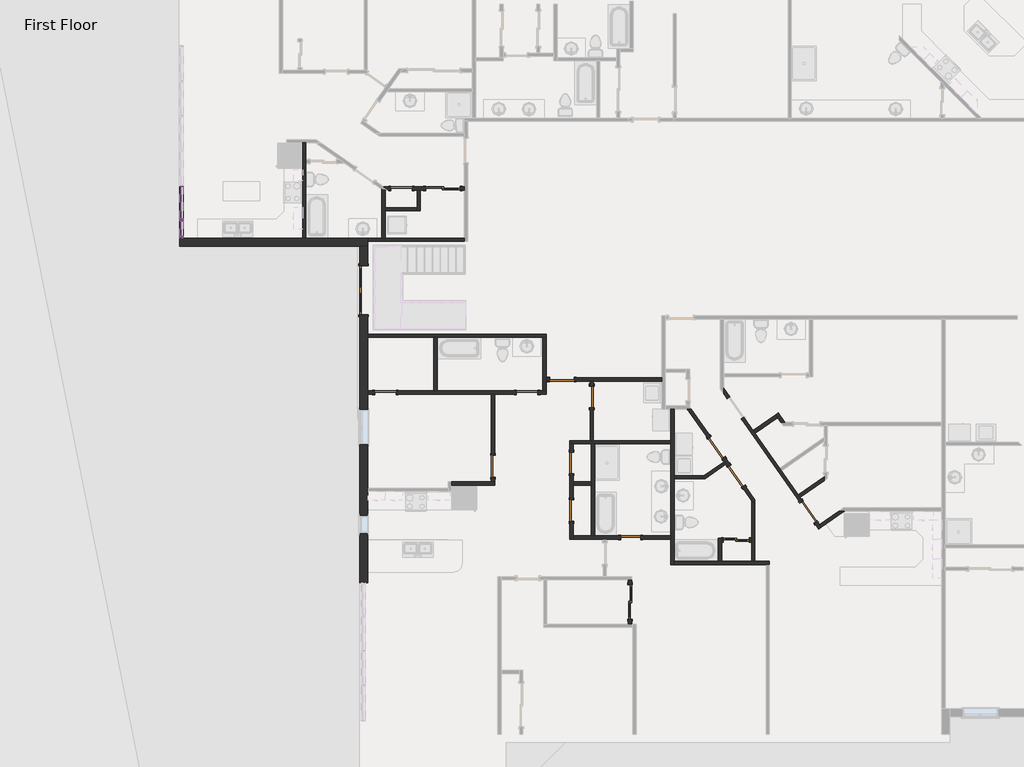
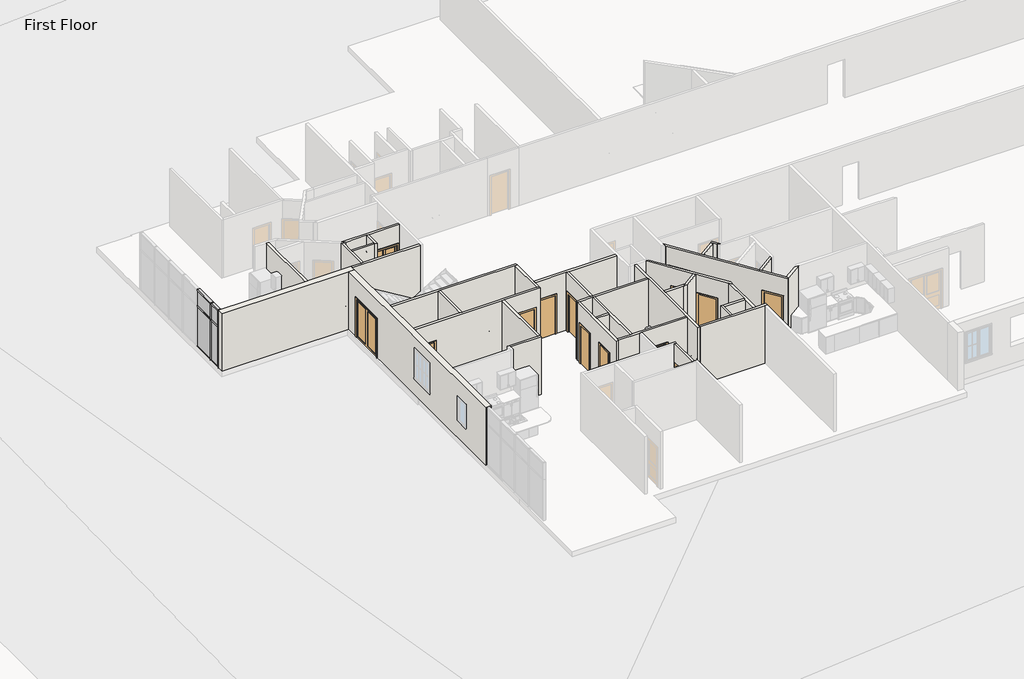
# One storey, part 2 of 17: 35 walls, 16 doors, 10 members, 4 plates.
"""IFC4 building model written with IfcOpenShell, lengths in millimetres."""

from ifc_helpers import new_model, si_unit, frame, origin, origin_with_axes, place, context, project, spatial, polyline, outline, extrude, faceted_brep, transform, mapped, element, save
from components import door_3dccea18, door_2d0eeab4, door_d8f5dbb5, door_f2b275c1, door_825b8444, door_c29894e6, door_88c23cd7, door_900f836f, rectangular_mullion_rectangular_mullion_1_fa3625a1, rectangular_mullion_rectangular_mullion_1_7cbf0b94, rectangular_mullion_rectangular_mullion_1_6186cc23, rectangular_mullion_rectangular_mullion_1_049a2e78, rectangular_mullion_rectangular_mullion_1_a50b3cda, rectangular_mullion_rectangular_mullion_1_5cd4c5ac, rectangular_mullion_rectangular_mullion_1_5f94ee87, rectangular_mullion_rectangular_mullion_1_01ab8f87, system_panel_glazed_0ed27d1d, system_panel_glazed_134bacdb, system_panel_glazed_08691960, system_panel_glazed_359e7c1e

model = new_model("IFC4")

# Units and contexts
model_context = context("Model", 3, world=origin())
ifc_project = project(units=[si_unit("LENGTHUNIT", "METRE", prefix="MILLI")], contexts=[model_context])

# Site, building, storey
site = spatial("IfcSite", under=ifc_project)
building = spatial("IfcBuilding", under=site)
storey = spatial("IfcBuildingStorey", under=building, Name="First Floor", Elevation=0.0)

# Doors
placement = place(None, origin())
door_shape = door_3dccea18(model_context)
element("IfcDoor", 1, ObjectType="Double-Glass 1 : 68\" x 80\"", at=placement, inside=storey, context=model_context, shape_type="MappedRepresentation", body=[
    mapped(door_shape, transform((7031.4393659, -3694.3871067, 0.0), x_axis=(0.0, 1.0, 0.0), y_axis=(-1.0, 0.0, 0.0), z_axis=(0.0, 0.0, 1.0))),
])
door_2_shape = door_2d0eeab4(model_context)
element("IfcDoor", 2, ObjectType="Single-Flush : 28\" x 80\"", at=placement, inside=storey, context=model_context, shape_type="MappedRepresentation", body=[
    mapped(door_2_shape, transform((16422.928371, -12394.3493344, 0.0), x_axis=(-1.0, 0.0, 0.0), y_axis=(0.0, -1.0, 0.0), z_axis=(0.0, 0.0, 1.0))),
])
door_3_shape = door_d8f5dbb5(model_context)
element("IfcDoor", 3, ObjectType="Single-Flush : 30\" x 80\"", at=placement, inside=storey, context=model_context, shape_type="MappedRepresentation", body=[
    mapped(door_3_shape, transform((12779.9561509, -7293.7212391, 0.0), x_axis=(1.0, 0.0, 0.0), y_axis=(0.0, 1.0, 0.0), z_axis=(0.0, 0.0, 1.0))),
])
element("IfcDoor", 4, ObjectType="Single-Flush : 30\" x 80\"", at=placement, inside=storey, context=model_context, shape_type="MappedRepresentation", body=[
    mapped(door_3_shape, transform((14339.6754984, -9769.6379528, 0.0), x_axis=(0.0, 1.0, 0.0), y_axis=(-1.0, 0.0, 0.0), z_axis=(0.0, 0.0, 1.0))),
])
door_4_shape = door_f2b275c1(model_context)
element("IfcDoor", 5, ObjectType="Single-Flush : 30\" x 80\"", at=placement, inside=storey, context=model_context, shape_type="MappedRepresentation", body=[
    mapped(door_4_shape, transform((8359.613642, -116.1297775, 0.0), x_axis=(-1.0, 0.0, 0.0), y_axis=(0.0, -1.0, 0.0), z_axis=(0.0, 0.0, 1.0))),
])
element("IfcDoor", 6, ObjectType="Single-Flush : 30\" x 80\"", at=placement, inside=storey, context=model_context, shape_type="MappedRepresentation", body=[
    mapped(door_4_shape, transform((15056.22709, -7446.1212391, 0.0), x_axis=(0.0, 1.0, 0.0), y_axis=(-1.0, 0.0, 0.0), z_axis=(0.0, 0.0, 1.0))),
])
element("IfcDoor", 7, ObjectType="Single-Flush : 30\" x 80\"", at=placement, inside=storey, context=model_context, shape_type="MappedRepresentation", body=[
    mapped(door_4_shape, transform((11582.8058728, -9888.1265712, 0.0), x_axis=(0.0, -1.0, 0.0), y_axis=(1.0, 0.0, 0.0), z_axis=(0.0, 0.0, 1.0))),
])
element("IfcDoor", 8, ObjectType="Single-Flush : 30\" x 80\"", at=placement, inside=storey, context=model_context, shape_type="MappedRepresentation", body=[
    mapped(door_4_shape, transform((7791.0581159, -7293.7212391, 0.0), x_axis=(-1.0, 0.0, 0.0), y_axis=(0.0, -1.0, 0.0), z_axis=(0.0, 0.0, 1.0))),
])
element("IfcDoor", 9, ObjectType="Single-Flush : 30\" x 80\"", at=placement, inside=storey, context=model_context, shape_type="MappedRepresentation", body=[
    mapped(door_4_shape, transform((14339.6754984, -11446.0379528, 0.0), x_axis=(0.0, -1.0, 0.0), y_axis=(1.0, 0.0, 0.0), z_axis=(0.0, 0.0, 1.0))),
])
door_5_shape = door_825b8444(model_context)
element("IfcDoor", 10, ObjectType="Single-Flush : 34\" x 80\"", at=placement, inside=storey, context=model_context, shape_type="MappedRepresentation", body=[
    mapped(door_5_shape, transform((19441.5762048, -9236.3622072, 0.0), x_axis=(0.573576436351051, -0.8191520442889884, 0.0), y_axis=(0.8191520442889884, 0.573576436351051, 0.0), z_axis=(0.0, 0.0, 1.0))),
])
door_6_shape = door_c29894e6(model_context)
element("IfcDoor", 11, ObjectType="Single-Flush : 34\" x 80\"", at=placement, inside=storey, context=model_context, shape_type="MappedRepresentation", body=[
    mapped(door_6_shape, transform((22679.8832205, -11498.1076976, 0.0), x_axis=(0.5735764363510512, -0.8191520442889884, 0.0), y_axis=(0.8191520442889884, 0.5735764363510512, 0.0), z_axis=(0.0, 0.0, 1.0))),
])
element("IfcDoor", 12, ObjectType="Single-Flush : 34\" x 80\"", at=placement, inside=storey, context=model_context, shape_type="MappedRepresentation", body=[
    mapped(door_6_shape, transform((20140.880596, -10235.0723796, 0.0), x_axis=(-0.573576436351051, 0.8191520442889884, 0.0), y_axis=(-0.8191520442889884, -0.573576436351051, 0.0), z_axis=(0.0, 0.0, 1.0))),
])
element("IfcDoor", 13, ObjectType="Single-Flush : 34\" x 80\"", at=placement, inside=storey, context=model_context, shape_type="MappedRepresentation", body=[
    mapped(door_6_shape, transform((13999.1561509, -6836.5212391, 0.0), x_axis=(-1.0, 0.0, 0.0), y_axis=(0.0, -1.0, 0.0), z_axis=(0.0, 0.0, 1.0))),
])
door_7_shape = door_88c23cd7(model_context)
element("IfcDoor", 14, ObjectType="Sliding-Closet : 36\" x 80\"", at=placement, inside=storey, context=model_context, shape_type="MappedRepresentation", body=[
    mapped(door_7_shape, transform((20139.3524328, -12607.5204597, 0.0), x_axis=(1.0, 0.0, 0.0), y_axis=(0.0, 1.0, 0.0), z_axis=(0.0, 0.0, 1.0))),
])
door_8_shape = door_900f836f(model_context)
element("IfcDoor", 15, ObjectType="Sliding-Closet : 48\" x 80\"", at=placement, inside=storey, context=model_context, shape_type="MappedRepresentation", body=[
    mapped(door_8_shape, transform((9813.633999, -243.1297775, 0.0), x_axis=(1.0, 0.0, 0.0), y_axis=(0.0, 1.0, 0.0), z_axis=(0.0, 0.0, 1.0))),
])
element("IfcDoor", 16, ObjectType="Sliding-Closet : 48\" x 80\"", at=placement, inside=storey, context=model_context, shape_type="MappedRepresentation", body=[
    mapped(door_8_shape, transform((16274.860372, -14663.3427377, 0.0), x_axis=(0.0, -1.0, 0.0), y_axis=(1.0, 0.0, 0.0), z_axis=(0.0, 0.0, 1.0))),
])

# Members
rectangular_mullion_rectangular_mullion_1_shape = rectangular_mullion_rectangular_mullion_1_fa3625a1(model_context)
element("IfcMember", 17, ObjectType="Rectangular Mullion : Rectangular Mullion 1", at=placement, inside=storey, context=model_context, shape_type="MappedRepresentation", body=[
    mapped(rectangular_mullion_rectangular_mullion_1_shape, transform((612.3831159, -1182.2572154, 3048.0), x_axis=(0.0, 0.0, 1.0), y_axis=(-1.0, 0.0, 0.0), z_axis=(0.0, -1.0, 0.0))),
])
element("IfcMember", 18, ObjectType="Rectangular Mullion : Rectangular Mullion 1", at=placement, inside=storey, context=model_context, shape_type="MappedRepresentation", body=[
    mapped(rectangular_mullion_rectangular_mullion_1_shape, transform((612.3831159, -26.5572154, 0.0), x_axis=(0.0, 0.0, -1.0), y_axis=(-1.0, 0.0, 0.0), z_axis=(0.0, 1.0, 0.0))),
])
rectangular_mullion_rectangular_mullion_1_2_shape = rectangular_mullion_rectangular_mullion_1_7cbf0b94(model_context)
element("IfcMember", 19, ObjectType="Rectangular Mullion : Rectangular Mullion 1", at=placement, inside=storey, context=model_context, shape_type="MappedRepresentation", body=[
    mapped(rectangular_mullion_rectangular_mullion_1_2_shape, transform((612.3831159, -1182.2572154, 2165.35), x_axis=(0.0, 0.0, 1.0), y_axis=(-1.0, 0.0, 0.0), z_axis=(0.0, -1.0, 0.0))),
])
rectangular_mullion_rectangular_mullion_1_3_shape = rectangular_mullion_rectangular_mullion_1_6186cc23(model_context)
element("IfcMember", 20, ObjectType="Rectangular Mullion : Rectangular Mullion 1", at=placement, inside=storey, context=model_context, shape_type="MappedRepresentation", body=[
    mapped(rectangular_mullion_rectangular_mullion_1_3_shape, transform((612.3831159, -1214.0072154, 0.0), x_axis=(0.0, -1.0, 0.0), y_axis=(-1.0, 0.0, 0.0), z_axis=(0.0, 0.0, -1.0))),
])
rectangular_mullion_rectangular_mullion_1_4_shape = rectangular_mullion_rectangular_mullion_1_049a2e78(model_context)
element("IfcMember", 21, ObjectType="Rectangular Mullion : Rectangular Mullion 1", at=placement, inside=storey, context=model_context, shape_type="MappedRepresentation", body=[
    mapped(rectangular_mullion_rectangular_mullion_1_4_shape, transform((612.3831159, -1214.0072154, 2165.35), x_axis=(0.0, -1.0, 0.0), y_axis=(-1.0, 0.0, 0.0), z_axis=(0.0, 0.0, -1.0))),
])
rectangular_mullion_rectangular_mullion_1_5_shape = rectangular_mullion_rectangular_mullion_1_a50b3cda(model_context)
element("IfcMember", 22, ObjectType="Rectangular Mullion : Rectangular Mullion 1", at=placement, inside=storey, context=model_context, shape_type="MappedRepresentation", body=[
    mapped(rectangular_mullion_rectangular_mullion_1_5_shape, transform((612.3831159, -1864.031369, 0.0), x_axis=(0.0, -1.0, 0.0), y_axis=(-1.0, 0.0, 0.0), z_axis=(0.0, 0.0, -1.0))),
])
rectangular_mullion_rectangular_mullion_1_6_shape = rectangular_mullion_rectangular_mullion_1_5cd4c5ac(model_context)
element("IfcMember", 23, ObjectType="Rectangular Mullion : Rectangular Mullion 1", at=placement, inside=storey, context=model_context, shape_type="MappedRepresentation", body=[
    mapped(rectangular_mullion_rectangular_mullion_1_6_shape, transform((612.3831159, -1864.031369, 2165.35), x_axis=(0.0, -1.0, 0.0), y_axis=(-1.0, 0.0, 0.0), z_axis=(0.0, 0.0, -1.0))),
])
rectangular_mullion_rectangular_mullion_1_7_shape = rectangular_mullion_rectangular_mullion_1_5f94ee87(model_context)
element("IfcMember", 24, ObjectType="Rectangular Mullion : Rectangular Mullion 1", at=placement, inside=storey, context=model_context, shape_type="MappedRepresentation", body=[
    mapped(rectangular_mullion_rectangular_mullion_1_7_shape, transform((612.3831159, -1800.531369, 3048.0), x_axis=(0.0, 0.0, 1.0), y_axis=(-1.0, 0.0, 0.0), z_axis=(0.0, -1.0, 0.0))),
])
element("IfcMember", 25, ObjectType="Rectangular Mullion : Rectangular Mullion 1", at=placement, inside=storey, context=model_context, shape_type="MappedRepresentation", body=[
    mapped(rectangular_mullion_rectangular_mullion_1_7_shape, transform((612.3831159, -1245.7572154, 0.0), x_axis=(0.0, 0.0, -1.0), y_axis=(-1.0, 0.0, 0.0), z_axis=(0.0, 1.0, 0.0))),
])
rectangular_mullion_rectangular_mullion_1_8_shape = rectangular_mullion_rectangular_mullion_1_01ab8f87(model_context)
element("IfcMember", 26, ObjectType="Rectangular Mullion : Rectangular Mullion 1", at=placement, inside=storey, context=model_context, shape_type="MappedRepresentation", body=[
    mapped(rectangular_mullion_rectangular_mullion_1_8_shape, transform((612.3831159, -1800.531369, 2165.35), x_axis=(0.0, 0.0, 1.0), y_axis=(-1.0, 0.0, 0.0), z_axis=(0.0, -1.0, 0.0))),
])

# Plates
system_panel_glazed_shape = system_panel_glazed_0ed27d1d(model_context)
element("IfcPlate", 27, ObjectType="System Panel : Glazed", at=placement, inside=storey, context=model_context, shape_type="MappedRepresentation", body=[
    mapped(system_panel_glazed_shape, transform((612.3831159, -604.4072154, 63.5), x_axis=(0.0, -1.0, 0.0), y_axis=(1.0, 0.0, 0.0), z_axis=(0.0, 0.0, 1.0))),
])
system_panel_glazed_2_shape = system_panel_glazed_134bacdb(model_context)
element("IfcPlate", 28, ObjectType="System Panel : Glazed", at=placement, inside=storey, context=model_context, shape_type="MappedRepresentation", body=[
    mapped(system_panel_glazed_2_shape, transform((612.3831159, -604.4072154, 2197.1), x_axis=(0.0, -1.0, 0.0), y_axis=(1.0, 0.0, 0.0), z_axis=(0.0, 0.0, 1.0))),
])
system_panel_glazed_3_shape = system_panel_glazed_08691960(model_context)
element("IfcPlate", 29, ObjectType="System Panel : Glazed", at=placement, inside=storey, context=model_context, shape_type="MappedRepresentation", body=[
    mapped(system_panel_glazed_3_shape, transform((612.3831159, -1523.1442922, 63.5), x_axis=(0.0, -1.0, 0.0), y_axis=(1.0, 0.0, 0.0), z_axis=(0.0, 0.0, 1.0))),
])
system_panel_glazed_4_shape = system_panel_glazed_359e7c1e(model_context)
element("IfcPlate", 30, ObjectType="System Panel : Glazed", at=placement, inside=storey, context=model_context, shape_type="MappedRepresentation", body=[
    mapped(system_panel_glazed_4_shape, transform((612.3831159, -1523.1442922, 2197.1), x_axis=(0.0, -1.0, 0.0), y_axis=(1.0, 0.0, 0.0), z_axis=(0.0, 0.0, 1.0))),
])

# Walls
element("IfcWall", 31, ObjectType="Exterior - Brick on Wood Stud", at=placement, inside=storey, context=model_context, shape_type="Brep", body=[
    faceted_brep([(7170.3456159, -2830.7871067, 2032.0), (7170.3456159, -2830.7871067, 0.0), (7170.3456159, -2146.606369, 0.0), (7170.3456159, -2146.606369, 3048.0), (7170.3456159, -5237.4371067, 3048.0), (7170.3456159, -5351.7371067, 3048.0), (7170.3456159, -7236.5712391, 3048.0), (7170.3456159, -7350.8712391, 3048.0), (7170.3456159, -10660.7993344, 3048.0), (7170.3456159, -10775.0993344, 3048.0), (7170.3456159, -13981.3871067, 3048.0), (7170.3456159, -13981.3871067, 0.0), (7170.3456159, -10775.0993344, 0.0), (7170.3456159, -10660.7993344, 0.0), (7170.3456159, -7350.8712391, 0.0), (7170.3456159, -7236.5712391, 0.0), (7170.3456159, -5351.7371067, 0.0), (7170.3456159, -5237.4371067, 0.0), (7170.3456159, -4557.9871067, 0.0), (7170.3456159, -4557.9871067, 2032.0), (7170.3456159, -7903.3212391, 2438.4), (7170.3456159, -7903.3212391, 914.4), (7170.3456159, -9122.5212391, 914.4), (7170.3456159, -9122.5212391, 2438.4), (7170.3456159, -11632.3493344, 2133.6), (7170.3456159, -11632.3493344, 914.4), (7170.3456159, -12241.9493344, 914.4), (7170.3456159, -12241.9493344, 2133.6), (6887.7706159, -2146.606369, 0.0), (6887.7706159, -2830.7871067, 0.0), (6887.7706159, -2830.7871067, 2032.0), (6887.7706159, -4557.9871067, 2032.0), (6887.7706159, -4557.9871067, 0.0), (6887.7706159, -13981.3871067, 0.0), (6887.7706159, -13981.3871067, 3048.0), (6887.7706159, -2146.606369, 3048.0), (6887.7706159, -7903.3212391, 2438.4), (6887.7706159, -9122.5212391, 2438.4), (6887.7706159, -9122.5212391, 914.4), (6887.7706159, -7903.3212391, 914.4), (6887.7706159, -11632.3493344, 2133.6), (6887.7706159, -12241.9493344, 2133.6), (6887.7706159, -12241.9493344, 914.4), (6887.7706159, -11632.3493344, 914.4)], [[[0, 1, 2, 3, 4, 5, 6, 7, 8, 9, 10, 11, 12, 13, 14, 15, 16, 17, 18, 19], [20, 21, 22, 23], [24, 25, 26, 27]], [[28, 29, 30, 31, 32, 33, 34, 35], [36, 37, 38, 39], [40, 41, 42, 43]], [[2, 1, 29, 28]], [[18, 17, 16, 15, 14, 13, 12, 11, 33, 32]], [[10, 9, 8, 7, 6, 5, 4, 3, 35, 34]], [[11, 10, 34, 33]], [[21, 20, 36, 39]], [[22, 21, 39, 38]], [[23, 22, 38, 37]], [[20, 23, 37, 36]], [[25, 24, 40, 43]], [[26, 25, 43, 42]], [[27, 26, 42, 41]], [[24, 27, 41, 40]], [[30, 29, 1, 0]], [[31, 30, 0, 19]], [[32, 31, 19, 18]], [[3, 2, 28, 35]]]),
])
element("IfcWall", 32, ObjectType="Exterior - Brick on Wood Stud", at=placement, inside=storey, context=model_context, shape_type="Brep", body=[
    faceted_brep([(548.8831159, -2146.606369, 0.0), (6887.7706159, -2146.606369, 0.0), (7170.3456159, -2146.606369, 0.0), (7170.3456159, -2146.606369, 3048.0), (6887.7706159, -2146.606369, 3048.0), (548.8831159, -2146.606369, 3048.0), (548.8831159, -1864.031369, 0.0), (548.8831159, -1864.031369, 3048.0), (4880.7003923, -1864.031369, 3048.0), (4995.0003923, -1864.031369, 3048.0), (7170.3456159, -1864.031369, 3048.0), (7170.3456159, -1864.031369, 0.0), (4995.0003923, -1864.031369, 0.0), (4880.7003923, -1864.031369, 0.0), (7170.3456159, -1978.331369, 0.0), (7170.3456159, -1978.331369, 3048.0)], [[[0, 1, 2, 3, 4, 5]], [[6, 7, 8, 9, 10, 11, 12, 13]], [[2, 1, 0, 6, 13, 12, 11, 14]], [[5, 4, 3, 15, 10, 9, 8, 7]], [[0, 5, 7, 6]], [[3, 2, 14, 11, 10, 15]]]),
])
element("IfcWall", 33, ObjectType="Interior - 4 1/2\" Partition", at=placement, inside=storey, context=model_context, shape_type="Brep", body=[
    faceted_brep([(4995.0003923, -1864.031369, 0.0), (4995.0003923, 782.2685137, 0.0), (4995.0003923, 896.5685137, 0.0), (4995.0003923, 1493.4685137, 0.0), (4995.0003923, 1493.4685137, 3048.0), (4995.0003923, 896.5685137, 3048.0), (4995.0003923, 782.2685137, 3048.0), (4995.0003923, -1864.031369, 3048.0), (4880.7003923, -1864.031369, 0.0), (4880.7003923, -1864.031369, 3048.0), (4880.7003923, 1493.4685137, 3048.0), (4880.7003923, 1493.4685137, 0.0)], [[[0, 1, 2, 3, 4, 5, 6, 7]], [[8, 9, 10, 11]], [[3, 2, 1, 0, 8, 11]], [[7, 6, 5, 4, 10, 9]], [[4, 3, 11, 10]], [[0, 7, 9, 8]]]),
])
element("IfcWall", 34, ObjectType="Interior - 4 1/2\" Partition", at=placement, inside=storey, context=model_context, shape_type="Brep", body=[
    faceted_brep([(10569.283999, -173.2797775, 3048.0), (9026.363642, -173.2797775, 3048.0), (8912.063642, -173.2797775, 3048.0), (7905.870285, -173.2797775, 3048.0), (7905.870285, -173.2797775, 0.0), (7978.613642, -173.2797775, 0.0), (7978.613642, -173.2797775, 2032.0), (8740.613642, -173.2797775, 2032.0), (8740.613642, -173.2797775, 0.0), (8912.063642, -173.2797775, 0.0), (9026.363642, -173.2797775, 0.0), (9204.033999, -173.2797775, 0.0), (9204.033999, -173.2797775, 2032.0), (10423.233999, -173.2797775, 2032.0), (10423.233999, -173.2797775, 0.0), (10569.283999, -173.2797775, 0.0), (7742.6329678, -58.9797775, 3048.0), (10569.283999, -58.9797775, 3048.0), (10569.283999, -58.9797775, 0.0), (10423.233999, -58.9797775, 0.0), (10423.233999, -58.9797775, 2032.0), (9204.033999, -58.9797775, 2032.0), (9204.033999, -58.9797775, 0.0), (8740.613642, -58.9797775, 0.0), (8740.613642, -58.9797775, 2032.0), (7978.613642, -58.9797775, 2032.0), (7978.613642, -58.9797775, 0.0), (7742.6329678, -58.9797775, 0.0)], [[[0, 1, 2, 3, 4, 5, 6, 7, 8, 9, 10, 11, 12, 13, 14, 15]], [[16, 17, 18, 19, 20, 21, 22, 23, 24, 25, 26, 27]], [[26, 5, 4, 27]], [[8, 23, 22, 11, 10, 9]], [[18, 15, 14, 19]], [[3, 2, 1, 0, 17, 16]], [[6, 5, 26, 25]], [[7, 6, 25, 24]], [[8, 7, 24, 23]], [[21, 12, 11, 22]], [[12, 21, 20, 13]], [[13, 20, 19, 14]], [[4, 3, 16, 27]], [[0, 15, 18, 17]]]),
])
element("IfcWall", 35, ObjectType="Interior - 4 1/2\" Partition", at=placement, inside=storey, context=model_context, shape_type="Brep", body=[
    faceted_brep([(7667.463642, -145.8801844, 0.0), (7667.463642, -1864.031369, 0.0), (7667.463642, -1864.031369, 3048.0), (7667.463642, -145.8801844, 3048.0), (7781.763642, -173.2797775, 0.0), (7781.763642, -173.2797775, 3048.0), (7781.763642, -783.946226, 3048.0), (7781.763642, -898.246226, 3048.0), (7781.763642, -1864.031369, 3048.0), (7781.763642, -1864.031369, 0.0), (7781.763642, -898.246226, 0.0), (7781.763642, -783.946226, 0.0), (7706.5943163, -173.2797775, 0.0), (7706.5943163, -173.2797775, 3048.0)], [[[0, 1, 2, 3]], [[4, 5, 6, 7, 8, 9, 10, 11]], [[1, 0, 12, 4, 11, 10, 9]], [[3, 2, 8, 7, 6, 5, 13]], [[0, 3, 13, 12]], [[13, 5, 4, 12]], [[2, 1, 9, 8]]]),
])
element("IfcWall", 36, ObjectType="Interior - 4 1/2\" Partition", at=placement, inside=storey, context=model_context, shape_type="Brep", body=[
    faceted_brep([(8912.063642, -173.2797775, 0.0), (8912.063642, -783.946226, 0.0), (8912.063642, -898.246226, 0.0), (8912.063642, -898.246226, 3048.0), (8912.063642, -783.946226, 3048.0), (8912.063642, -173.2797775, 3048.0), (9026.363642, -173.2797775, 0.0), (9026.363642, -173.2797775, 3048.0), (9026.363642, -898.246226, 3048.0), (9026.363642, -898.246226, 0.0)], [[[0, 1, 2, 3, 4, 5]], [[6, 7, 8, 9]], [[2, 1, 0, 6, 9]], [[5, 4, 3, 8, 7]], [[3, 2, 9, 8]], [[0, 5, 7, 6]]]),
])
element("IfcWall", 37, ObjectType="Interior - 4 1/2\" Partition", at=placement, inside=storey, context=model_context, shape_type="SweptSolid", body=[
    extrude(outline(polyline([(7781.763642, -783.946226), (8912.063642, -783.946226), (8912.063642, -898.246226), (7781.763642, -898.246226), (7781.763642, -783.946226)])), origin_with_axes(), (0.0, 0.0, 1.0), 3048.0),
])
element("IfcWall", 38, ObjectType="Interior - 4 1/2\" Partition", at=placement, inside=storey, context=model_context, shape_type="Brep", body=[
    faceted_brep([(7170.3456159, -5351.7371067, 0.0), (9494.3397027, -5351.7371067, 0.0), (9608.6397027, -5351.7371067, 0.0), (13332.4061509, -5351.7371067, 0.0), (13446.7061509, -5351.7371067, 0.0), (13446.7061509, -5351.7371067, 3048.0), (13332.4061509, -5351.7371067, 3048.0), (9608.6397027, -5351.7371067, 3048.0), (9494.3397027, -5351.7371067, 3048.0), (7170.3456159, -5351.7371067, 3048.0), (7170.3456159, -5237.4371067, 0.0), (7170.3456159, -5237.4371067, 3048.0), (13446.7061509, -5237.4371067, 3048.0), (13446.7061509, -5237.4371067, 0.0)], [[[0, 1, 2, 3, 4, 5, 6, 7, 8, 9]], [[10, 11, 12, 13]], [[4, 3, 2, 1, 0, 10, 13]], [[9, 8, 7, 6, 5, 12, 11]], [[5, 4, 13, 12]], [[0, 9, 11, 10]]]),
])
element("IfcWall", 39, ObjectType="Interior - 4 1/2\" Partition", at=placement, inside=storey, context=model_context, shape_type="Brep", body=[
    faceted_brep([(13332.4061509, -5351.7371067, 0.0), (13332.4061509, -7236.5712391, 0.0), (13332.4061509, -7236.5712391, 3048.0), (13332.4061509, -5351.7371067, 3048.0), (13446.7061509, -5351.7371067, 0.0), (13446.7061509, -5351.7371067, 3048.0), (13446.7061509, -6779.3712391, 3048.0), (13446.7061509, -6893.6712391, 3048.0), (13446.7061509, -7236.5712391, 3048.0), (13446.7061509, -7236.5712391, 0.0), (13446.7061509, -6893.6712391, 0.0), (13446.7061509, -6779.3712391, 0.0)], [[[0, 1, 2, 3]], [[4, 5, 6, 7, 8, 9, 10, 11]], [[1, 0, 4, 11, 10, 9]], [[3, 2, 8, 7, 6, 5]], [[2, 1, 9, 8]], [[0, 3, 5, 4]]]),
])
element("IfcWall", 40, ObjectType="Interior - 4 1/2\" Partition", at=placement, inside=storey, context=model_context, shape_type="Brep", body=[
    faceted_brep([(13446.7061509, -6893.6712391, 0.0), (13567.3561509, -6893.6712391, 0.0), (13567.3561509, -6893.6712391, 2032.0), (14430.9561509, -6893.6712391, 2032.0), (14430.9561509, -6893.6712391, 0.0), (14999.07709, -6893.6712391, 0.0), (15113.37709, -6893.6712391, 0.0), (17521.3916991, -6893.6712391, 0.0), (17521.3916991, -6893.6712391, 3048.0), (15113.37709, -6893.6712391, 3048.0), (14999.07709, -6893.6712391, 3048.0), (13446.7061509, -6893.6712391, 3048.0), (13567.3561509, -6779.3712391, 2032.0), (13567.3561509, -6779.3712391, 0.0), (13446.7061509, -6779.3712391, 0.0), (13446.7061509, -6779.3712391, 3048.0), (17521.3916991, -6779.3712391, 3048.0), (17521.3916991, -6779.3712391, 0.0), (14430.9561509, -6779.3712391, 0.0), (14430.9561509, -6779.3712391, 2032.0)], [[[0, 1, 2, 3, 4, 5, 6, 7, 8, 9, 10, 11]], [[12, 13, 14, 15, 16, 17, 18, 19]], [[18, 17, 7, 6, 5, 4]], [[14, 13, 1, 0]], [[11, 10, 9, 8, 16, 15]], [[2, 1, 13, 12]], [[3, 2, 12, 19]], [[4, 3, 19, 18]], [[8, 7, 17, 16]], [[0, 11, 15, 14]]]),
])
element("IfcWall", 41, ObjectType="Interior - 4 1/2\" Partition", at=placement, inside=storey, context=model_context, shape_type="Brep", body=[
    faceted_brep([(17837.7191338, -7873.4719726, 0.0), (17837.7191338, -8984.3993344, 0.0), (17837.7191338, -9098.6993344, 0.0), (17837.7191338, -12337.1993344, 0.0), (17837.7191338, -12451.4993344, 0.0), (17837.7191338, -13350.4704597, 0.0), (17837.7191338, -13350.4704597, 3048.0), (17837.7191338, -12451.4993344, 3048.0), (17837.7191338, -12337.1993344, 3048.0), (17837.7191338, -9098.6993344, 3048.0), (17837.7191338, -8984.3993344, 3048.0), (17837.7191338, -7873.4719726, 3048.0), (17952.0191338, -7873.4719726, 0.0), (17952.0191338, -7873.4719726, 3048.0), (17952.0191338, -10214.0460393, 3048.0), (17952.0191338, -10328.3460393, 3048.0), (17952.0191338, -13236.1704597, 3048.0), (17952.0191338, -13350.4704597, 3048.0), (17952.0191338, -13350.4704597, 0.0), (17952.0191338, -13236.1704597, 0.0), (17952.0191338, -10328.3460393, 0.0), (17952.0191338, -10214.0460393, 0.0)], [[[0, 1, 2, 3, 4, 5, 6, 7, 8, 9, 10, 11]], [[12, 13, 14, 15, 16, 17, 18, 19, 20, 21]], [[5, 4, 3, 2, 1, 0, 12, 21, 20, 19, 18]], [[11, 10, 9, 8, 7, 6, 17, 16, 15, 14, 13]], [[6, 5, 18, 17]], [[0, 11, 13, 12]]]),
])
element("IfcWall", 42, ObjectType="Interior - 4 1/2\" Partition", at=placement, inside=storey, context=model_context, shape_type="Brep", body=[
    faceted_brep([(17952.0191338, -13350.4704597, 0.0), (21185.6615862, -13350.4704597, 0.0), (21299.9615862, -13350.4704597, 0.0), (21299.9615862, -13350.4704597, 3048.0), (21185.6615862, -13350.4704597, 3048.0), (17952.0191338, -13350.4704597, 3048.0), (17952.0191338, -13236.1704597, 0.0), (17952.0191338, -13236.1704597, 3048.0), (19511.69036, -13236.1704597, 3048.0), (19625.99036, -13236.1704597, 3048.0), (20678.1145056, -13236.1704597, 3048.0), (20792.4145056, -13236.1704597, 3048.0), (21299.9615862, -13236.1704597, 3048.0), (21299.9615862, -13236.1704597, 0.0), (20792.4145056, -13236.1704597, 0.0), (20678.1145056, -13236.1704597, 0.0), (19625.99036, -13236.1704597, 0.0), (19511.69036, -13236.1704597, 0.0)], [[[0, 1, 2, 3, 4, 5]], [[6, 7, 8, 9, 10, 11, 12, 13, 14, 15, 16, 17]], [[2, 1, 0, 6, 17, 16, 15, 14, 13]], [[5, 4, 3, 12, 11, 10, 9, 8, 7]], [[3, 2, 13, 12]], [[0, 5, 7, 6]]]),
])
element("IfcWall", 43, ObjectType="Interior - 4 1/2\" Partition", at=placement, inside=storey, context=model_context, shape_type="SweptSolid", body=[
    extrude(outline(polyline([(-15272.9427377, 2032.0), (-15272.9427377, 0.0), (-15440.4282946, 0.0), (-15440.4282946, 3048.0), (-13886.2571807, 3048.0), (-13886.2571807, 0.0), (-14053.7427377, 0.0), (-14053.7427377, 2032.0), (-15272.9427377, 2032.0)])), frame((16344.710372, 0.0, 0.0), z_axis=(1.0, 0.0, 0.0), x_axis=(0.0, 1.0, 0.0)), (0.0, 0.0, 1.0), 114.3),
])
element("IfcWall", 44, ObjectType="Interior - 4 1/2\" Partition", at=placement, inside=storey, context=model_context, shape_type="Brep", body=[
    faceted_brep([(17837.7191338, -8984.3993344, 0.0), (15113.37709, -8984.3993344, 0.0), (14999.07709, -8984.3993344, 0.0), (14282.5254984, -8984.3993344, 0.0), (14282.5254984, -8984.3993344, 3048.0), (14999.07709, -8984.3993344, 3048.0), (15113.37709, -8984.3993344, 3048.0), (17837.7191338, -8984.3993344, 3048.0), (17837.7191338, -9098.6993344, 0.0), (17837.7191338, -9098.6993344, 3048.0), (15157.82709, -9098.6993344, 3048.0), (15043.52709, -9098.6993344, 3048.0), (14396.8254984, -9098.6993344, 3048.0), (14282.5254984, -9098.6993344, 3048.0), (14282.5254984, -9098.6993344, 0.0), (14396.8254984, -9098.6993344, 0.0), (15043.52709, -9098.6993344, 0.0), (15157.82709, -9098.6993344, 0.0)], [[[0, 1, 2, 3, 4, 5, 6, 7]], [[8, 9, 10, 11, 12, 13, 14, 15, 16, 17]], [[3, 2, 1, 0, 8, 17, 16, 15, 14]], [[7, 6, 5, 4, 13, 12, 11, 10, 9]], [[4, 3, 14, 13]], [[0, 7, 9, 8]]]),
])
element("IfcWall", 45, ObjectType="Interior - 4 1/2\" Partition", at=placement, inside=storey, context=model_context, shape_type="SweptSolid", body=[
    extrude(outline(polyline([(-6893.6712391, 0.0), (-7065.1212391, 0.0), (-7065.1212391, 2032.0), (-7827.1212391, 2032.0), (-7827.1212391, 0.0), (-8984.3993344, 0.0), (-8984.3993344, 3048.0), (-6893.6712391, 3048.0), (-6893.6712391, 0.0)])), frame((14999.07709, 0.0, 0.0), z_axis=(1.0, 0.0, 0.0), x_axis=(0.0, 1.0, 0.0)), (0.0, 0.0, 1.0), 114.3),
])
element("IfcWall", 46, ObjectType="Interior - 4 1/2\" Partition", at=placement, inside=storey, context=model_context, shape_type="Brep", body=[
    faceted_brep([(14282.5254984, -11827.0379528, 2032.0), (14282.5254984, -11827.0379528, 0.0), (14282.5254984, -12451.4993344, 0.0), (14282.5254984, -12451.4993344, 3048.0), (14282.5254984, -9098.6993344, 3048.0), (14282.5254984, -9098.6993344, 0.0), (14282.5254984, -9388.6379528, 0.0), (14282.5254984, -9388.6379528, 2032.0), (14282.5254984, -10150.6379528, 2032.0), (14282.5254984, -10150.6379528, 0.0), (14282.5254984, -11065.0379528, 0.0), (14282.5254984, -11065.0379528, 2032.0), (14396.8254984, -12451.4993344, 0.0), (14396.8254984, -12337.1993344, 0.0), (14396.8254984, -11827.0379528, 0.0), (14396.8254984, -11827.0379528, 2032.0), (14396.8254984, -11065.0379528, 2032.0), (14396.8254984, -11065.0379528, 0.0), (14396.8254984, -10554.8765712, 0.0), (14396.8254984, -10440.5765712, 0.0), (14396.8254984, -10150.6379528, 0.0), (14396.8254984, -10150.6379528, 2032.0), (14396.8254984, -9388.6379528, 2032.0), (14396.8254984, -9388.6379528, 0.0), (14396.8254984, -9098.6993344, 0.0), (14396.8254984, -9098.6993344, 3048.0), (14396.8254984, -10440.5765712, 3048.0), (14396.8254984, -10554.8765712, 3048.0), (14396.8254984, -12337.1993344, 3048.0), (14396.8254984, -12451.4993344, 3048.0)], [[[0, 1, 2, 3, 4, 5, 6, 7, 8, 9, 10, 11]], [[12, 13, 14, 15, 16, 17, 18, 19, 20, 21, 22, 23, 24, 25, 26, 27, 28, 29]], [[24, 23, 6, 5]], [[10, 9, 20, 19, 18, 17]], [[2, 1, 14, 13, 12]], [[4, 3, 29, 28, 27, 26, 25]], [[7, 6, 23, 22]], [[8, 7, 22, 21]], [[9, 8, 21, 20]], [[15, 14, 1, 0]], [[16, 15, 0, 11]], [[17, 16, 11, 10]], [[3, 2, 12, 29]], [[5, 4, 25, 24]]]),
])
element("IfcWall", 47, ObjectType="Interior - 4 1/2\" Partition", at=placement, inside=storey, context=model_context, shape_type="Brep", body=[
    faceted_brep([(14396.8254984, -12451.4993344, 0.0), (15451.378371, -12451.4993344, 0.0), (15565.678371, -12451.4993344, 0.0), (16067.328371, -12451.4993344, 0.0), (16067.328371, -12451.4993344, 2032.0), (16778.528371, -12451.4993344, 2032.0), (16778.528371, -12451.4993344, 0.0), (17837.7191338, -12451.4993344, 0.0), (17837.7191338, -12451.4993344, 3048.0), (15565.678371, -12451.4993344, 3048.0), (15451.378371, -12451.4993344, 3048.0), (14396.8254984, -12451.4993344, 3048.0), (16067.328371, -12337.1993344, 2032.0), (16067.328371, -12337.1993344, 0.0), (15157.82709, -12337.1993344, 0.0), (15043.52709, -12337.1993344, 0.0), (14396.8254984, -12337.1993344, 0.0), (14396.8254984, -12337.1993344, 3048.0), (15043.52709, -12337.1993344, 3048.0), (15157.82709, -12337.1993344, 3048.0), (17837.7191338, -12337.1993344, 3048.0), (17837.7191338, -12337.1993344, 0.0), (16778.528371, -12337.1993344, 0.0), (16778.528371, -12337.1993344, 2032.0)], [[[0, 1, 2, 3, 4, 5, 6, 7, 8, 9, 10, 11]], [[12, 13, 14, 15, 16, 17, 18, 19, 20, 21, 22, 23]], [[22, 21, 7, 6]], [[16, 15, 14, 13, 3, 2, 1, 0]], [[11, 10, 9, 8, 20, 19, 18, 17]], [[0, 11, 17, 16]], [[8, 7, 21, 20]], [[4, 3, 13, 12]], [[5, 4, 12, 23]], [[6, 5, 23, 22]]]),
])
element("IfcWall", 48, ObjectType="Interior - 4 1/2\" Partition", at=placement, inside=storey, context=model_context, shape_type="Brep", body=[
    faceted_brep([(15043.52709, -9098.6993344, 0.0), (15043.52709, -10440.5765712, 0.0), (15043.52709, -10554.8765712, 0.0), (15043.52709, -12337.1993344, 0.0), (15043.52709, -12337.1993344, 3048.0), (15043.52709, -10554.8765712, 3048.0), (15043.52709, -10440.5765712, 3048.0), (15043.52709, -9098.6993344, 3048.0), (15157.82709, -9098.6993344, 0.0), (15157.82709, -9098.6993344, 3048.0), (15157.82709, -12337.1993344, 3048.0), (15157.82709, -12337.1993344, 0.0)], [[[0, 1, 2, 3, 4, 5, 6, 7]], [[8, 9, 10, 11]], [[3, 2, 1, 0, 8, 11]], [[7, 6, 5, 4, 10, 9]], [[4, 3, 11, 10]], [[0, 7, 9, 8]]]),
])
element("IfcWall", 49, ObjectType="Interior - 4 1/2\" Partition", at=placement, inside=storey, context=model_context, shape_type="Brep", body=[
    faceted_brep([(7170.3456159, -7350.8712391, 0.0), (7410.0581159, -7350.8712391, 0.0), (7410.0581159, -7350.8712391, 2032.0), (8172.0581159, -7350.8712391, 2032.0), (8172.0581159, -7350.8712391, 0.0), (11525.6558728, -7350.8712391, 0.0), (11639.9558728, -7350.8712391, 0.0), (12398.9561509, -7350.8712391, 0.0), (12398.9561509, -7350.8712391, 2032.0), (13160.9561509, -7350.8712391, 2032.0), (13160.9561509, -7350.8712391, 0.0), (13446.7061509, -7350.8712391, 0.0), (13446.7061509, -7350.8712391, 3048.0), (11639.9558728, -7350.8712391, 3048.0), (11525.6558728, -7350.8712391, 3048.0), (7170.3456159, -7350.8712391, 3048.0), (7410.0581159, -7236.5712391, 2032.0), (7410.0581159, -7236.5712391, 0.0), (7170.3456159, -7236.5712391, 0.0), (7170.3456159, -7236.5712391, 3048.0), (9494.3397027, -7236.5712391, 3048.0), (9608.6397027, -7236.5712391, 3048.0), (13332.4061509, -7236.5712391, 3048.0), (13446.7061509, -7236.5712391, 3048.0), (13446.7061509, -7236.5712391, 0.0), (13332.4061509, -7236.5712391, 0.0), (13160.9561509, -7236.5712391, 0.0), (13160.9561509, -7236.5712391, 2032.0), (12398.9561509, -7236.5712391, 2032.0), (12398.9561509, -7236.5712391, 0.0), (9608.6397027, -7236.5712391, 0.0), (9494.3397027, -7236.5712391, 0.0), (8172.0581159, -7236.5712391, 0.0), (8172.0581159, -7236.5712391, 2032.0)], [[[0, 1, 2, 3, 4, 5, 6, 7, 8, 9, 10, 11, 12, 13, 14, 15]], [[16, 17, 18, 19, 20, 21, 22, 23, 24, 25, 26, 27, 28, 29, 30, 31, 32, 33]], [[11, 10, 26, 25, 24]], [[18, 17, 1, 0]], [[32, 31, 30, 29, 7, 6, 5, 4]], [[15, 14, 13, 12, 23, 22, 21, 20, 19]], [[27, 26, 10, 9]], [[28, 27, 9, 8]], [[29, 28, 8, 7]], [[2, 1, 17, 16]], [[3, 2, 16, 33]], [[4, 3, 33, 32]], [[12, 11, 24, 23]], [[0, 15, 19, 18]]]),
])
element("IfcWall", 50, ObjectType="Interior - 4 1/2\" Partition", at=placement, inside=storey, context=model_context, shape_type="SweptSolid", body=[
    extrude(outline(polyline([(9608.6397027, -5351.7371067), (9608.6397027, -7236.5712391), (9494.3397027, -7236.5712391), (9494.3397027, -5351.7371067), (9608.6397027, -5351.7371067)])), origin_with_axes(), (0.0, 0.0, 1.0), 3048.0),
])
element("IfcWall", 51, ObjectType="Interior - 4 1/2\" Partition", at=placement, inside=storey, context=model_context, shape_type="Brep", body=[
    faceted_brep([(10115.9558728, -10554.8765712, 0.0), (11639.9558728, -10554.8765712, 0.0), (11639.9558728, -10554.8765712, 3048.0), (10115.9558728, -10554.8765712, 3048.0), (10115.9558728, -10440.5765712, 0.0), (10115.9558728, -10440.5765712, 3048.0), (11525.6558728, -10440.5765712, 3048.0), (11639.9558728, -10440.5765712, 3048.0), (11639.9558728, -10440.5765712, 0.0), (11525.6558728, -10440.5765712, 0.0)], [[[0, 1, 2, 3]], [[4, 5, 6, 7, 8, 9]], [[1, 0, 4, 9, 8]], [[3, 2, 7, 6, 5]], [[2, 1, 8, 7]], [[0, 3, 5, 4]]]),
])
element("IfcWall", 52, ObjectType="Interior - 4 1/2\" Partition", at=placement, inside=storey, context=model_context, shape_type="SweptSolid", body=[
    extrude(outline(polyline([(-10269.1265712, 2032.0), (-10269.1265712, 0.0), (-10440.5765712, 0.0), (-10440.5765712, 3048.0), (-7350.8712391, 3048.0), (-7350.8712391, 0.0), (-9507.1265712, 0.0), (-9507.1265712, 2032.0), (-10269.1265712, 2032.0)])), frame((11525.6558728, 0.0, 0.0), z_axis=(1.0, 0.0, 0.0), x_axis=(0.0, 1.0, 0.0)), (0.0, 0.0, 1.0), 114.3),
])
element("IfcWall", 53, ObjectType="Interior - 4 1/2\" Partition", at=placement, inside=storey, context=model_context, shape_type="Brep", body=[
    faceted_brep([(21847.2369931, -8340.2927038, 0.0), (21618.8599772, -8014.1365238, 0.0), (21618.8599772, -8014.1365238, 3048.0), (21847.2369931, -8340.2927038, 3048.0), (21707.7024576, -8340.2927038, 0.0), (21707.7024576, -8340.2927038, 3048.0), (21590.7906853, -8173.3253892, 3048.0), (21525.2308986, -8079.6963105, 3048.0), (21525.2308986, -8079.6963105, 0.0), (21590.7906853, -8173.3253892, 0.0)], [[[0, 1, 2, 3]], [[4, 5, 6, 7, 8, 9]], [[1, 0, 4, 9, 8]], [[3, 2, 7, 6, 5]], [[2, 1, 8, 7]], [[0, 3, 5, 4]]]),
])
element("IfcWall", 54, ObjectType="Interior - 4 1/2\" Partition", at=placement, inside=storey, context=model_context, shape_type="SweptSolid", body=[
    extrude(outline(polyline([(20740.7007976, -8629.0302012), (21525.2308986, -8079.6963105), (21590.7906853, -8173.3253892), (20806.2605843, -8722.6592798), (20740.7007976, -8629.0302012)])), origin_with_axes(), (0.0, 0.0, 1.0), 3048.0),
])
element("IfcWall", 55, ObjectType="Interior - 4 1/2\" Partition", at=placement, inside=storey, context=model_context, shape_type="Brep", body=[
    faceted_brep([(22880.7389864, -11884.5974436, 2032.0), (22880.7389864, -11884.5974436, 0.0), (23036.0836883, -12106.45267, 0.0), (23036.0836883, -12106.45267, 3048.0), (19698.1594272, -7339.4027898, 3048.0), (19698.1594272, -7339.4027898, 0.0), (19820.2899648, -7513.8232736, 0.0), (19820.2899648, -7513.8232736, 2032.0), (20315.6305752, -8221.2429791, 2032.0), (20315.6305752, -8221.2429791, 0.0), (22385.398376, -11177.1777382, 0.0), (22385.398376, -11177.1777382, 2032.0), (23129.712767, -12040.8928833, 0.0), (23064.1529803, -11947.2638046, 0.0), (22974.3680651, -11819.0376569, 0.0), (22974.3680651, -11819.0376569, 2032.0), (22479.0274547, -11111.6179515, 2032.0), (22479.0274547, -11111.6179515, 0.0), (22389.2425394, -10983.3918038, 0.0), (22323.6827528, -10889.7627251, 0.0), (21738.045474, -10053.3860128, 0.0), (21672.4856873, -9959.7569341, 0.0), (20806.2605843, -8722.6592798, 0.0), (20740.7007976, -8629.0302012, 0.0), (20409.2596539, -8155.6831924, 0.0), (20409.2596539, -8155.6831924, 2032.0), (19913.9190434, -7448.2634869, 2032.0), (19913.9190434, -7448.2634869, 0.0), (19698.1594272, -7140.1268211, 0.0), (19698.1594272, -7140.1268211, 3048.0), (20740.7007976, -8629.0302012, 3048.0), (20806.2605843, -8722.6592798, 3048.0), (21672.4856873, -9959.7569341, 3048.0), (21738.045474, -10053.3860128, 3048.0), (22323.6827528, -10889.7627251, 3048.0), (22389.2425394, -10983.3918038, 3048.0), (23064.1529803, -11947.2638046, 3048.0), (23129.712767, -12040.8928833, 3048.0)], [[[0, 1, 2, 3, 4, 5, 6, 7, 8, 9, 10, 11]], [[12, 13, 14, 15, 16, 17, 18, 19, 20, 21, 22, 23, 24, 25, 26, 27, 28, 29, 30, 31, 32, 33, 34, 35, 36, 37]], [[28, 27, 6, 5]], [[10, 9, 24, 23, 22, 21, 20, 19, 18, 17]], [[2, 1, 14, 13, 12]], [[4, 3, 37, 36, 35, 34, 33, 32, 31, 30, 29]], [[7, 6, 27, 26]], [[8, 7, 26, 25]], [[9, 8, 25, 24]], [[15, 14, 1, 0]], [[16, 15, 0, 11]], [[17, 16, 11, 10]], [[3, 2, 12, 37]], [[5, 4, 29, 28]]]),
])
element("IfcWall", 56, ObjectType="Interior - 4 1/2\" Partition", at=placement, inside=storey, context=model_context, shape_type="SweptSolid", body=[
    extrude(outline(polyline([(22323.6827528, -10889.7627251), (23230.0696169, -10255.1038104), (23230.0696169, -10394.6383458), (22389.2425394, -10983.3918038), (22323.6827528, -10889.7627251)])), origin_with_axes(), (0.0, 0.0, 1.0), 3048.0),
])
element("IfcWall", 57, ObjectType="Interior - 4 1/2\" Partition", at=placement, inside=storey, context=model_context, shape_type="Brep", body=[
    faceted_brep([(19642.4319707, -9622.8519533, 2032.0), (19642.4319707, -9622.8519533, 0.0), (19711.6339677, -9721.6826474, 0.0), (19777.1937544, -9815.3117261, 0.0), (19846.3957514, -9914.1424202, 0.0), (19846.3957514, -9914.1424202, 2032.0), (20341.7363619, -10621.5621257, 2032.0), (20341.7363619, -10621.5621257, 0.0), (20678.1145056, -11101.9599012, 0.0), (20792.4145056, -11265.1972184, 0.0), (20792.4145056, -11265.1972184, 3048.0), (20678.1145056, -11101.9599012, 3048.0), (19777.1937544, -9815.3117261, 3048.0), (19711.6339677, -9721.6826474, 3048.0), (18417.502921, -7873.4719726, 3048.0), (18417.502921, -7873.4719726, 0.0), (19147.0913602, -8915.4322478, 0.0), (19147.0913602, -8915.4322478, 2032.0), (19940.0248301, -9848.5826336, 0.0), (19736.0610493, -9557.2921666, 0.0), (19736.0610493, -9557.2921666, 2032.0), (19240.7204389, -8849.8724612, 2032.0), (19240.7204389, -8849.8724612, 0.0), (18557.0374565, -7873.4719726, 0.0), (18557.0374565, -7873.4719726, 3048.0), (20792.4145056, -11065.9212497, 3048.0), (20792.4145056, -11065.9212497, 0.0), (20435.3654405, -10556.002339, 0.0), (20435.3654405, -10556.002339, 2032.0), (19940.0248301, -9848.5826336, 2032.0)], [[[0, 1, 2, 3, 4, 5, 6, 7, 8, 9, 10, 11, 12, 13, 14, 15, 16, 17]], [[18, 19, 20, 21, 22, 23, 24, 25, 26, 27, 28, 29]], [[27, 26, 9, 8, 7]], [[16, 15, 23, 22]], [[4, 3, 2, 1, 19, 18]], [[14, 13, 12, 11, 10, 25, 24]], [[5, 4, 18, 29]], [[6, 5, 29, 28]], [[7, 6, 28, 27]], [[20, 19, 1, 0]], [[21, 20, 0, 17]], [[22, 21, 17, 16]], [[10, 9, 26, 25]], [[15, 14, 24, 23]]]),
])
element("IfcWall", 58, ObjectType="Interior - 4 1/2\" Partition", at=placement, inside=storey, context=model_context, shape_type="Brep", body=[
    faceted_brep([(20678.1145056, -11101.9599012, 0.0), (20678.1145056, -12423.3704597, 0.0), (20678.1145056, -12537.6704597, 0.0), (20678.1145056, -13236.1704597, 0.0), (20678.1145056, -13236.1704597, 3048.0), (20678.1145056, -12537.6704597, 3048.0), (20678.1145056, -12423.3704597, 3048.0), (20678.1145056, -11101.9599012, 3048.0), (20792.4145056, -11265.1972184, 0.0), (20792.4145056, -11265.1972184, 3048.0), (20792.4145056, -13236.1704597, 3048.0), (20792.4145056, -13236.1704597, 0.0)], [[[0, 1, 2, 3, 4, 5, 6, 7]], [[8, 9, 10, 11]], [[3, 2, 1, 0, 8, 11]], [[7, 6, 5, 4, 10, 9]], [[0, 7, 9, 8]], [[4, 3, 11, 10]]]),
])
element("IfcWall", 59, ObjectType="Interior - 4 1/2\" Partition", at=placement, inside=storey, context=model_context, shape_type="Brep", body=[
    faceted_brep([(19711.6339677, -9721.6826474, 0.0), (19008.466171, -10214.0460393, 0.0), (18845.2288539, -10328.3460393, 0.0), (18845.2288539, -10328.3460393, 3048.0), (19008.466171, -10214.0460393, 3048.0), (19711.6339677, -9721.6826474, 3048.0), (19777.1937544, -9815.3117261, 0.0), (19777.1937544, -9815.3117261, 3048.0), (19044.5048226, -10328.3460393, 3048.0), (19044.5048226, -10328.3460393, 0.0)], [[[0, 1, 2, 3, 4, 5]], [[6, 7, 8, 9]], [[2, 1, 0, 6, 9]], [[5, 4, 3, 8, 7]], [[3, 2, 9, 8]], [[0, 5, 7, 6]]]),
])
element("IfcWall", 60, ObjectType="Interior - 4 1/2\" Partition", at=placement, inside=storey, context=model_context, shape_type="SweptSolid", body=[
    extrude(outline(polyline([(17952.0191338, -10214.0460393), (19008.466171, -10214.0460393), (18845.2288539, -10328.3460393), (17952.0191338, -10328.3460393), (17952.0191338, -10214.0460393)])), origin_with_axes(), (0.0, 0.0, 1.0), 3048.0),
])
element("IfcWall", 61, ObjectType="Interior - 4 1/2\" Partition", at=placement, inside=storey, context=model_context, shape_type="SweptSolid", body=[
    extrude(outline(polyline([(23064.1529803, -11947.2638046), (23747.2935405, -11468.9236347), (23946.5695093, -11468.9236347), (23129.712767, -12040.8928833), (23064.1529803, -11947.2638046)])), origin_with_axes(), (0.0, 0.0, 1.0), 3048.0),
])
element("IfcWall", 62, ObjectType="Interior - 4 1/2\" Partition", at=placement, inside=storey, context=model_context, shape_type="SweptSolid", body=[
    extrude(outline(polyline([(14396.8254984, -10440.5765712), (15043.52709, -10440.5765712), (15043.52709, -10554.8765712), (14396.8254984, -10554.8765712), (14396.8254984, -10440.5765712)])), origin_with_axes(), (0.0, 0.0, 1.0), 3048.0),
])
element("IfcWall", 63, ObjectType="Interior - 4 1/2\" Partition", at=placement, inside=storey, context=model_context, shape_type="Brep", body=[
    faceted_brep([(19625.99036, -13236.1704597, 0.0), (19625.99036, -12537.6704597, 0.0), (19625.99036, -12423.3704597, 0.0), (19625.99036, -12423.3704597, 3048.0), (19625.99036, -12537.6704597, 3048.0), (19625.99036, -13236.1704597, 3048.0), (19511.69036, -13236.1704597, 0.0), (19511.69036, -13236.1704597, 3048.0), (19511.69036, -12423.3704597, 3048.0), (19511.69036, -12423.3704597, 0.0)], [[[0, 1, 2, 3, 4, 5]], [[6, 7, 8, 9]], [[2, 1, 0, 6, 9]], [[5, 4, 3, 8, 7]], [[3, 2, 9, 8]], [[0, 5, 7, 6]]]),
])
element("IfcWall", 64, ObjectType="Interior - 4 1/2\" Partition", at=placement, inside=storey, context=model_context, shape_type="SweptSolid", body=[
    extrude(outline(polyline([(2032.0, 20596.5524328), (0.0, 20596.5524328), (0.0, 20678.1145056), (3048.0, 20678.1145056), (3048.0, 19625.99036), (0.0, 19625.99036), (0.0, 19682.1524328), (2032.0, 19682.1524328), (2032.0, 20596.5524328)])), frame((0.0, -12537.6704597, 0.0), z_axis=(0.0, 1.0, 0.0), x_axis=(0.0, 0.0, 1.0)), (0.0, 0.0, 1.0), 114.3),
])
element("IfcWall", 65, ObjectType="Interior - 4 1/2\" Partition", at=placement, inside=storey, context=model_context, shape_type="Brep", body=[
    faceted_brep([(7170.3456159, -1978.331369, 0.0), (10569.283999, -1978.331369, 0.0), (10569.283999, -1978.331369, 3048.0), (7170.3456159, -1978.331369, 3048.0), (7170.3456159, -1864.031369, 0.0), (7170.3456159, -1864.031369, 3048.0), (7667.463642, -1864.031369, 3048.0), (7781.763642, -1864.031369, 3048.0), (10569.283999, -1864.031369, 3048.0), (10569.283999, -1864.031369, 0.0), (7781.763642, -1864.031369, 0.0), (7667.463642, -1864.031369, 0.0)], [[[0, 1, 2, 3]], [[4, 5, 6, 7, 8, 9, 10, 11]], [[1, 0, 4, 11, 10, 9]], [[3, 2, 8, 7, 6, 5]], [[2, 1, 9, 8]], [[0, 3, 5, 4]]]),
])

save(model, "model.ifc")
